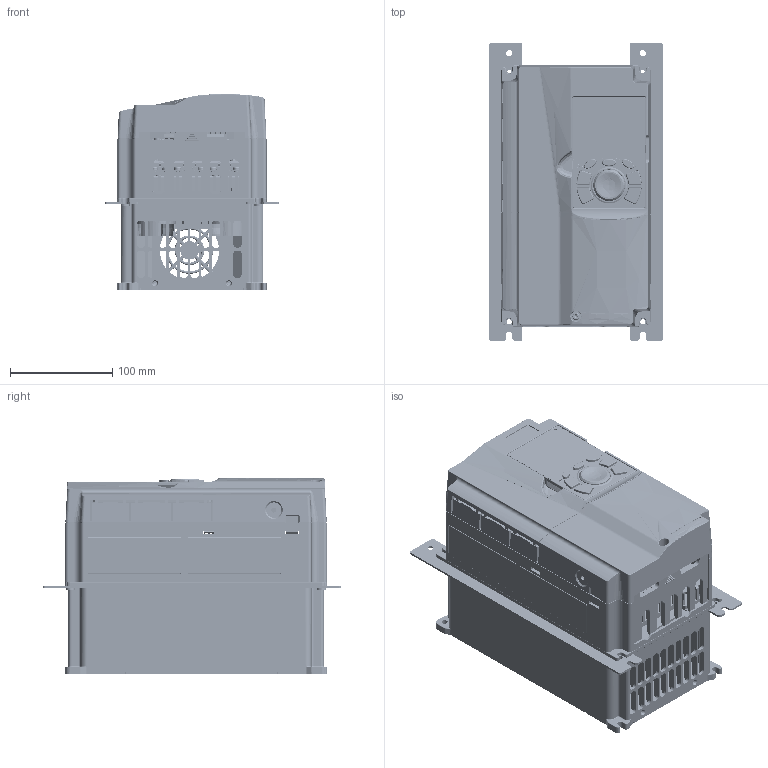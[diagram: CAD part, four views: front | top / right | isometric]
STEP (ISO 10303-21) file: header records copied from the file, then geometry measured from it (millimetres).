
FILE_DESCRIPTION((''),'2;1');
FILE_NAME('ST600-7R5G3_ASM','2019-07-04T',('Administrator'),(''),'PRO/ENGINEER BY PARAMETRIC TECHNOLOGY CORPORATION, 2010100','PRO/ENGINEER BY PARAMETRIC TECHNOLOGY CORPORATION, 2010100','');
FILE_SCHEMA(('CONFIG_CONTROL_DESIGN'));
Products named in the file (53): 80810120; 80810119; 80810119SY; ST600-7R5G3_COVER_ASM; 80740175; 80880484; 80740177; 80310231; 80740176; PA1704_CT1_A2; E-DIN0309-5_08MM-TA; E-DIN0302-5_08MM-TA; E-HEAD0207-TC; E-USB08-TF; E-IDC34-ORM1; E-MJ0204-R; E-MJ0204-100T; KUOZHIDINGZHU; PA1704_CT1_A2_ASM; TB1100-08_BODY_02; TB1100-08_TER_02; TB1300-02_LUODING_02; TB1300-02_WADIAN_02; TB1300-02_LUODINGASM_02_ASM; TB1100-08-02_ASM; CH-LD-5R5-DRIVE_PCB; 70610025; ST600-7R5G3-ES_ASM; 80740019; GB9074_4_M4X10; GB9074_4_M4X12; 77340010; ST600-7R5G3-FS_ASM; 80740163; 80740162; 80880456; 80880456SY; 40810091_ASM; 80740164; 80740164SY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
Assembly tree (85 placements, depth 5):
  ST600-7R5G3_ASM
    ST600-7R5G3_COVER_ASM
      80810120
      80810119
      80810119SY
    80740175
    80880484
    80740177
    80310231
    80740176
    ST600-7R5G3-ES_ASM
      PA1704_CT1_A2_ASM
        PA1704_CT1_A2
        E-DIN0309-5_08MM-TA
        E-DIN0302-5_08MM-TA
        E-HEAD0207-TC
        E-USB08-TF
        E-IDC34-ORM1
        E-MJ0204-R
        E-MJ0204-100T
        KUOZHIDINGZHU  x3
      TB1100-08-02_ASM
        TB1100-08_BODY_02
        TB1100-08_TER_02  x9
        TB1300-02_LUODINGASM_02_ASM  x9
          TB1300-02_LUODING_02
          TB1300-02_WADIAN_02
      CH-LD-5R5-DRIVE_PCB
      70610025
    80740019  x4
    ST600-7R5G3-FS_ASM
      GB9074_4_M4X10  x7
      GB9074_4_M4X12  x3
      77340010
    KEY-LCD01-ZY-600_ASM
      80740163
      40810091_ASM
        80740162
        80880456
        80880456SY
      80740164
      80740164SY
      KEY-LCD01-ZY-600-ES_ASM
        36002-00065
        39009-00082
        17003-02723_20180403_ASM
          17003-02723_20180403
          E-MJ0204-100T
    40800024_ASM
      80380186_ASM
        80380186
        S-M5-ZC  x2
      80380187_ASM
        80380187
        S-M5-ZC  x2
Bounding box: 170.2 x 292 x 191.87 mm (x, y, z)
Volume: 1061350.6 mm3; surface area: 972541.8 mm2
Topology: 77 solids, 77 shells, 15758 faces, 43371 edges, 27935 vertices
Faces by surface type: plane 8274, cylinder 5711, bspline 662, torus 557, cone 298, extrusion 191, sphere 65
Entity records: 463032 total; most frequent: CARTESIAN_POINT 109965, ORIENTED_EDGE 73840, DIRECTION 72187, EDGE_CURVE 36920, VECTOR 24205, LINE 24014, AXIS2_PLACEMENT_3D 23991, VERTEX_POINT 23912
